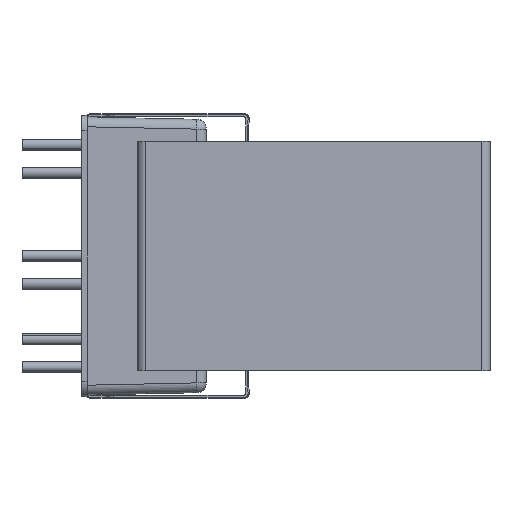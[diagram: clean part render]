
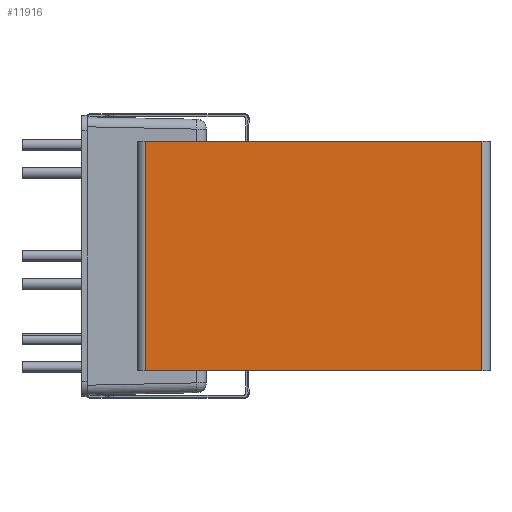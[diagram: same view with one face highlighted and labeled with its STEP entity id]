
A CAD part, left-side view. The second image highlights one B-rep face of the part: STEP entity #11916.
In plain terms, the highlighted planar face has unit normal (-1, 0, 0).
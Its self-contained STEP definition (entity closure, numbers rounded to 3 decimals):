
#518 = CARTESIAN_POINT ( 'NONE',  ( -27.5, -36.05, 10.5 ) ) ;
#716 = LINE ( 'NONE', #9014, #1486 ) ;
#1155 = EDGE_CURVE ( 'NONE', #1254, #2437, #3451, .T. ) ;
#1254 = VERTEX_POINT ( 'NONE', #5370 ) ;
#1260 = DIRECTION ( 'NONE',  ( 1., 0., 0. ) ) ;
#1385 = LINE ( 'NONE', #5152, #9531 ) ;
#1486 = VECTOR ( 'NONE', #7379, 1000. ) ;
#2437 = VERTEX_POINT ( 'NONE', #5227 ) ;
#2558 = VERTEX_POINT ( 'NONE', #11247 ) ;
#3311 = DIRECTION ( 'NONE',  ( 0., 0., -1. ) ) ;
#3451 = LINE ( 'NONE', #11085, #4369 ) ;
#3674 = EDGE_CURVE ( 'NONE', #1254, #2558, #7207, .T. ) ;
#4096 = EDGE_CURVE ( 'NONE', #2558, #4465, #1385, .T. ) ;
#4268 = DIRECTION ( 'NONE',  ( 0., 1., 0. ) ) ;
#4369 = VECTOR ( 'NONE', #7283, 1000. ) ;
#4465 = VERTEX_POINT ( 'NONE', #8154 ) ;
#5068 = EDGE_CURVE ( 'NONE', #2437, #4465, #716, .T. ) ;
#5152 = CARTESIAN_POINT ( 'NONE',  ( -27.5, -36.05, -10.5 ) ) ;
#5227 = CARTESIAN_POINT ( 'NONE',  ( -27.5, -36.05, 10.5 ) ) ;
#5345 = CARTESIAN_POINT ( 'NONE',  ( -27.5, -5.35, 10.5 ) ) ;
#5370 = CARTESIAN_POINT ( 'NONE',  ( -27.5, -5.35, 10.5 ) ) ;
#5649 = ORIENTED_EDGE ( 'NONE', *, *, #4096, .T. ) ;
#6016 = VECTOR ( 'NONE', #3311, 1000. ) ;
#6090 = AXIS2_PLACEMENT_3D ( 'NONE', #518, #1260, #4268 ) ;
#6999 = FACE_OUTER_BOUND ( 'NONE', #11993, .T. ) ;
#7207 = LINE ( 'NONE', #5345, #6016 ) ;
#7283 = DIRECTION ( 'NONE',  ( 0., -1., 0. ) ) ;
#7379 = DIRECTION ( 'NONE',  ( 0., 0., -1. ) ) ;
#7712 = ORIENTED_EDGE ( 'NONE', *, *, #1155, .F. ) ;
#7993 = DIRECTION ( 'NONE',  ( 0., -1., 0. ) ) ;
#8154 = CARTESIAN_POINT ( 'NONE',  ( -27.5, -36.05, -10.5 ) ) ;
#9014 = CARTESIAN_POINT ( 'NONE',  ( -27.5, -36.05, 10.5 ) ) ;
#9531 = VECTOR ( 'NONE', #7993, 1000. ) ;
#10603 = ORIENTED_EDGE ( 'NONE', *, *, #3674, .T. ) ;
#10734 = PLANE ( 'NONE',  #6090 ) ;
#11085 = CARTESIAN_POINT ( 'NONE',  ( -27.5, -36.05, 10.5 ) ) ;
#11247 = CARTESIAN_POINT ( 'NONE',  ( -27.5, -5.35, -10.5 ) ) ;
#11605 = ORIENTED_EDGE ( 'NONE', *, *, #5068, .F. ) ;
#11916 = ADVANCED_FACE ( 'NONE', ( #6999 ), #10734, .F. ) ;
#11993 = EDGE_LOOP ( 'NONE', ( #5649, #11605, #7712, #10603 ) ) ;
